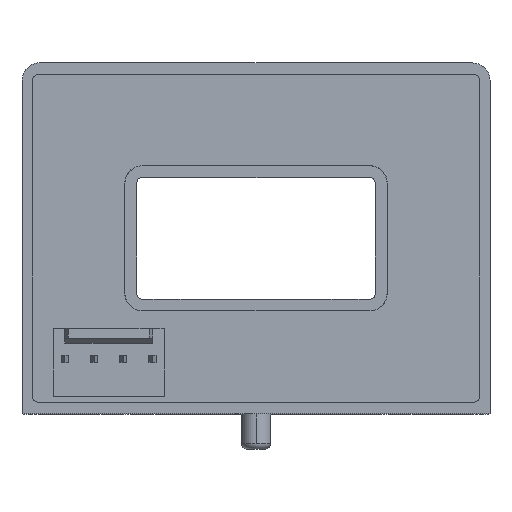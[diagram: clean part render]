
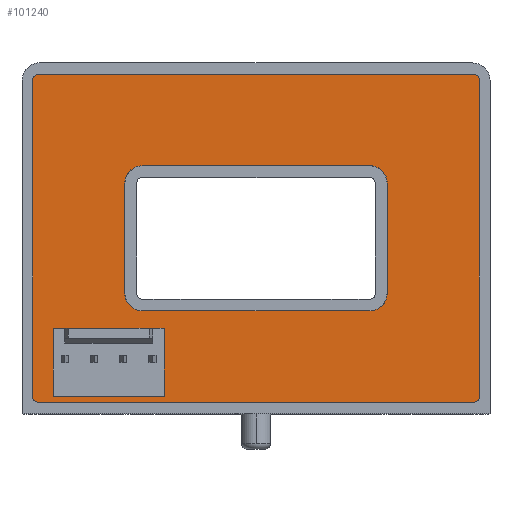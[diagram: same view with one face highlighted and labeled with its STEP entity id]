
A CAD part, top view. The second image highlights one B-rep face of the part: STEP entity #101240.
In plain terms, the highlighted planar face has unit normal (0, 0, 1) as drawn and (0, 0, -1) by its records, which use the part's own axes.
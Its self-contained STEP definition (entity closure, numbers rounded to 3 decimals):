
#4510=CARTESIAN_POINT('',(-18.598,13.999,
0.1));
#4520=VERTEX_POINT('',#4510);
#4680=CARTESIAN_POINT('',(-19.098,13.5,
0.1));
#4690=VERTEX_POINT('',#4680);
#4720=CARTESIAN_POINT('',(-18.598,13.499,
0.1));
#4730=DIRECTION('',(0.,0.,1.));
#4740=DIRECTION('',(0.958,-0.287,0.));
#4750=AXIS2_PLACEMENT_3D('',#4720,#4730,#4740);
#4760=ELLIPSE('',#4750,0.5,0.5);
#4770=EDGE_CURVE('',#4520,#4690,#4760,.T.);
#4930=CARTESIAN_POINT('',(19.098,13.5,
0.1));
#4940=VERTEX_POINT('',#4930);
#5100=CARTESIAN_POINT('',(18.598,13.999,
0.1));
#5110=VERTEX_POINT('',#5100);
#5140=CARTESIAN_POINT('',(18.598,13.499,
0.1));
#5150=DIRECTION('',(0.,0.,1.));
#5160=DIRECTION('',(0.958,0.287,0.));
#5170=AXIS2_PLACEMENT_3D('',#5140,#5150,#5160);
#5180=ELLIPSE('',#5170,0.5,0.5);
#5190=EDGE_CURVE('',#4940,#5110,#5180,.T.);
#5350=CARTESIAN_POINT('',(11.214,4.714,
0.1));
#5360=VERTEX_POINT('',#5350);
#5510=CARTESIAN_POINT('',(11.214,-4.7,0.1));
#5520=VERTEX_POINT('',#5510);
#5550=CARTESIAN_POINT('',(11.214,0.,0.1));
#5560=DIRECTION('',(0.,1.,0.));
#5570=VECTOR('',#5560,1.);
#5580=LINE('',#5550,#5570);
#5590=EDGE_CURVE('',#5520,#5360,#5580,.T.);
#13690=CARTESIAN_POINT('',(-18.598,-13.999,
0.1));
#13700=VERTEX_POINT('',#13690);
#13870=CARTESIAN_POINT('',(18.598,-13.999,
0.1));
#13880=VERTEX_POINT('',#13870);
#13910=CARTESIAN_POINT('',(0.,-13.999,0.1));
#13920=DIRECTION('',(-1.,0.,0.));
#13930=VECTOR('',#13920,1.);
#13940=LINE('',#13910,#13930);
#13950=EDGE_CURVE('',#13880,#13700,#13940,.T.);
#45690=CARTESIAN_POINT('',(-11.214,4.714,
0.1));
#45700=VERTEX_POINT('',#45690);
#45880=CARTESIAN_POINT('',(-9.714,6.214,
0.1));
#45890=VERTEX_POINT('',#45880);
#45920=CARTESIAN_POINT('',(-9.714,4.714,
0.1));
#45930=DIRECTION('',(0.,0.,1.));
#45940=DIRECTION('',(-0.707,0.707,0.));
#45950=AXIS2_PLACEMENT_3D('',#45920,#45930,#45940);
#45960=ELLIPSE('',#45950,1.5,1.5);
#45970=EDGE_CURVE('',#45890,#45700,#45960,.T.);
#46370=CARTESIAN_POINT('',(9.714,6.214,
0.1));
#46380=VERTEX_POINT('',#46370);
#46410=CARTESIAN_POINT('',(0.,6.214,0.1));
#46420=DIRECTION('',(1.,0.,0.));
#46430=VECTOR('',#46420,1.);
#46440=LINE('',#46410,#46430);
#46450=EDGE_CURVE('',#45890,#46380,#46440,.T.);
#49450=CARTESIAN_POINT('',(-18.598,-13.499,
0.1));
#49460=DIRECTION('',(0.,0.,1.));
#49470=DIRECTION('',(0.958,0.287,0.));
#49480=AXIS2_PLACEMENT_3D('',#49450,#49460,#49470);
#49490=ELLIPSE('',#49480,0.5,0.5);
#49500=CARTESIAN_POINT('',(-19.098,-13.5,
0.1));
#49510=VERTEX_POINT('',#49500);
#49520=EDGE_CURVE('',#49510,#13700,#49490,.T.);
#59040=CARTESIAN_POINT('',(9.714,-6.2,0.1));
#59050=VERTEX_POINT('',#59040);
#59080=CARTESIAN_POINT('',(9.714,-4.7,0.1));
#59090=DIRECTION('',(0.,0.,1.));
#59100=DIRECTION('',(1.,0.,0.));
#59110=AXIS2_PLACEMENT_3D('',#59080,#59090,#59100);
#59120=ELLIPSE('',#59110,1.5,1.5);
#59130=EDGE_CURVE('',#59050,#5520,#59120,.T.);
#60570=CARTESIAN_POINT('',(0.,13.999,0.1));
#60580=DIRECTION('',(1.,0.,0.));
#60590=VECTOR('',#60580,1.);
#60600=LINE('',#60570,#60590);
#60610=EDGE_CURVE('',#4520,#5110,#60600,.T.);
#66370=CARTESIAN_POINT('',(-19.098,0.,0.1));
#66380=DIRECTION('',(0.,1.,0.));
#66390=VECTOR('',#66380,1.);
#66400=LINE('',#66370,#66390);
#66410=EDGE_CURVE('',#49510,#4690,#66400,.T.);
#69810=CARTESIAN_POINT('',(-9.714,-6.2,0.1));
#69820=VERTEX_POINT('',#69810);
#69850=CARTESIAN_POINT('',(0.,-6.2,0.1));
#69860=DIRECTION('',(1.,0.,0.));
#69870=VECTOR('',#69860,1.);
#69880=LINE('',#69850,#69870);
#69890=EDGE_CURVE('',#69820,#59050,#69880,.T.);
#75730=CARTESIAN_POINT('',(19.098,-13.5,
0.1));
#75740=VERTEX_POINT('',#75730);
#75770=CARTESIAN_POINT('',(18.598,-13.499,
0.1));
#75780=DIRECTION('',(0.,0.,1.));
#75790=DIRECTION('',(0.958,-0.287,0.));
#75800=AXIS2_PLACEMENT_3D('',#75770,#75780,#75790);
#75810=ELLIPSE('',#75800,0.5,0.5);
#75820=EDGE_CURVE('',#13880,#75740,#75810,.T.);
#83710=CARTESIAN_POINT('',(9.714,4.714,
0.1));
#83720=DIRECTION('',(0.,0.,1.));
#83730=DIRECTION('',(0.707,0.707,0.));
#83740=AXIS2_PLACEMENT_3D('',#83710,#83720,#83730);
#83750=ELLIPSE('',#83740,1.5,1.5);
#83760=EDGE_CURVE('',#5360,#46380,#83750,.T.);
#90910=CARTESIAN_POINT('',(-11.214,-4.7,0.1));
#90920=VERTEX_POINT('',#90910);
#90970=CARTESIAN_POINT('',(-11.214,0.,0.1));
#90980=DIRECTION('',(0.,1.,0.));
#90990=VECTOR('',#90980,1.);
#91000=LINE('',#90970,#90990);
#91010=EDGE_CURVE('',#90920,#45700,#91000,.T.);
#100140=CARTESIAN_POINT('',(19.098,0.,0.1));
#100150=DIRECTION('',(0.,-1.,0.));
#100160=VECTOR('',#100150,1.);
#100170=LINE('',#100140,#100160);
#100180=EDGE_CURVE('',#4940,#75740,#100170,.T.);
#100430=CARTESIAN_POINT('',(-9.714,-4.7,0.1));
#100440=DIRECTION('',(0.,0.,1.));
#100450=DIRECTION('',(1.,0.,0.));
#100460=AXIS2_PLACEMENT_3D('',#100430,#100440,#100450);
#100470=ELLIPSE('',#100460,1.5,1.5);
#100480=EDGE_CURVE('',#90920,#69820,#100470,.T.);
#100650=CARTESIAN_POINT('',(-20.2,-15.15,0.1));
#100660=DIRECTION('',(0.,0.,1.));
#100670=DIRECTION('',(1.,0.,0.));
#100680=AXIS2_PLACEMENT_3D('',#100650,#100660,#100670);
#100690=PLANE('',#100680);
#100700=ORIENTED_EDGE('',*,*,#66410,.T.);
#100710=ORIENTED_EDGE('',*,*,#49520,.F.);
#100720=ORIENTED_EDGE('',*,*,#13950,.T.);
#100730=ORIENTED_EDGE('',*,*,#75820,.F.);
#100740=ORIENTED_EDGE('',*,*,#100180,.T.);
#100750=ORIENTED_EDGE('',*,*,#5190,.F.);
#100760=ORIENTED_EDGE('',*,*,#60610,.T.);
#100770=ORIENTED_EDGE('',*,*,#4770,.F.);
#100780=EDGE_LOOP('',(#100770,#100760,#100750,#100740,#100730,#100720,
#100710,#100700));
#100790=FACE_OUTER_BOUND('',#100780,.T.);
#100800=ORIENTED_EDGE('',*,*,#100480,.T.);
#100810=ORIENTED_EDGE('',*,*,#91010,.F.);
#100820=ORIENTED_EDGE('',*,*,#45970,.T.);
#100830=ORIENTED_EDGE('',*,*,#46450,.F.);
#100840=ORIENTED_EDGE('',*,*,#83760,.T.);
#100850=ORIENTED_EDGE('',*,*,#5590,.T.);
#100860=ORIENTED_EDGE('',*,*,#59130,.T.);
#100870=ORIENTED_EDGE('',*,*,#69890,.T.);
#100880=EDGE_LOOP('',(#100870,#100860,#100850,#100840,#100830,#100820,
#100810,#100800));
#100890=FACE_BOUND('',#100880,.T.);
#100900=CARTESIAN_POINT('',(0.,-13.5,0.1));
#100910=DIRECTION('',(1.,0.,0.));
#100920=VECTOR('',#100910,1.);
#100930=LINE('',#100900,#100920);
#100940=CARTESIAN_POINT('',(7.845,-13.5,
0.1));
#100950=VERTEX_POINT('',#100940);
#100960=CARTESIAN_POINT('',(17.345,-13.5,
0.1));
#100970=VERTEX_POINT('',#100960);
#100980=EDGE_CURVE('',#100950,#100970,#100930,.T.);
#100990=ORIENTED_EDGE('',*,*,#100980,.T.);
#101000=CARTESIAN_POINT('',(7.845,0.,0.1));
#101010=DIRECTION('',(0.,-1.,0.));
#101020=VECTOR('',#101010,1.);
#101030=LINE('',#101000,#101020);
#101040=CARTESIAN_POINT('',(7.845,-7.7,
0.1));
#101050=VERTEX_POINT('',#101040);
#101060=EDGE_CURVE('',#101050,#100950,#101030,.T.);
#101070=ORIENTED_EDGE('',*,*,#101060,.T.);
#101080=CARTESIAN_POINT('',(0.,-7.7,0.1));
#101090=DIRECTION('',(-1.,0.,0.));
#101100=VECTOR('',#101090,1.);
#101110=LINE('',#101080,#101100);
#101120=CARTESIAN_POINT('',(17.345,-7.7,
0.1));
#101130=VERTEX_POINT('',#101120);
#101140=EDGE_CURVE('',#101130,#101050,#101110,.T.);
#101150=ORIENTED_EDGE('',*,*,#101140,.T.);
#101160=CARTESIAN_POINT('',(17.345,0.,0.1));
#101170=DIRECTION('',(0.,-1.,0.));
#101180=VECTOR('',#101170,1.);
#101190=LINE('',#101160,#101180);
#101200=EDGE_CURVE('',#101130,#100970,#101190,.T.);
#101210=ORIENTED_EDGE('',*,*,#101200,.F.);
#101220=EDGE_LOOP('',(#101210,#101150,#101070,#100990));
#101230=FACE_BOUND('',#101220,.T.);
#101240=ADVANCED_FACE('',(#100790,#100890,#101230),#100690,.F.);
